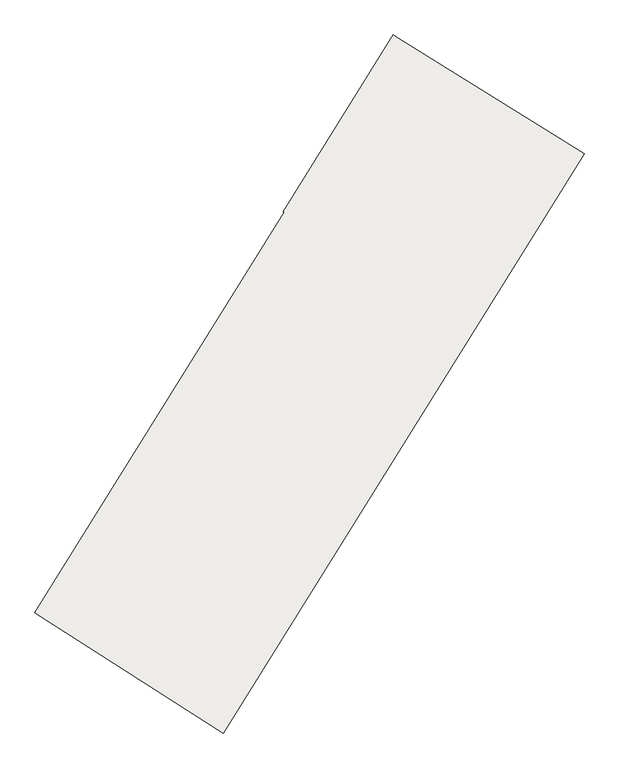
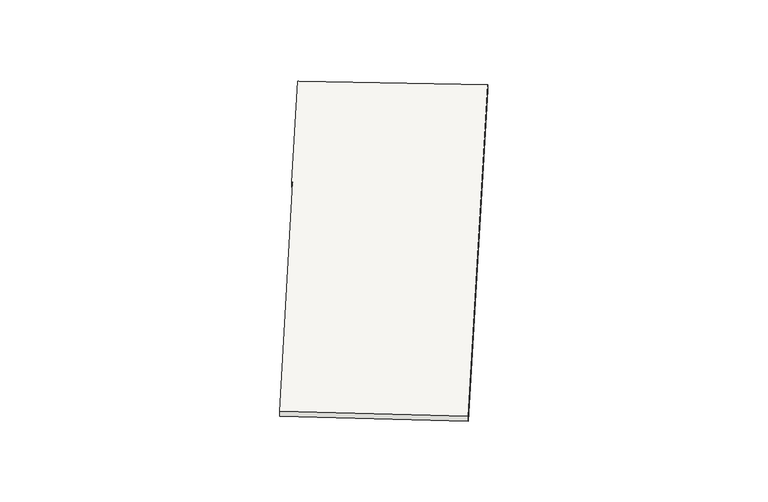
"""IFC4 building model written with IfcOpenShell, lengths in millimetres: slab geometry, Non-Monolitic_Landing."""

from ifc_helpers import new_model, si_unit, frame, origin, place, context, project, spatial, polyline, outline, extrude, source, transform, mapped, element, save


def slab_f578b30b(model_context):
    return source(origin(), model_context, "Body", "SweptSolid", [
        extrude(outline(polyline([(15719.8981166, 7505.9986332), (17394.6941884, 10194.3814427), (17386.2064907, 10199.6690687), (18125.2738495, 11386.0200616), (18133.7615472, 11380.7324356), (19406.916198, 10587.5885424), (16983.7443242, 6697.9128263), (15719.8981166, 7505.9986332)])), frame((0.0, 0.0, 3433.8709677), z_axis=(0.0, 0.0, 1.0), x_axis=(1.0, 0.0, 0.0)), (0.0, 0.0, 1.0), 50.0),
    ])


if __name__ == "__main__":
    model = new_model("IFC4")
    model_context = context("Model", 3, world=origin())
    ifc_project = project(units=[si_unit("LENGTHUNIT", "METRE", prefix="MILLI")], contexts=[model_context])
    site = spatial("IfcSite", under=ifc_project)
    building = spatial("IfcBuilding", under=site)
    placement = place(None, origin())
    slab_shape = slab_f578b30b(model_context)
    element("IfcSlab", 1, ObjectType="Non-Monolitic_Landing", at=placement, inside=building, context=model_context, shape_type="MappedRepresentation", body=[
        mapped(slab_shape, transform((0.0, 0.0, 0.0), x_axis=(1.0, 0.0, 0.0), y_axis=(0.0, 1.0, 0.0), z_axis=(0.0, 0.0, 1.0))),
    ])
    save(model, "model.ifc")
